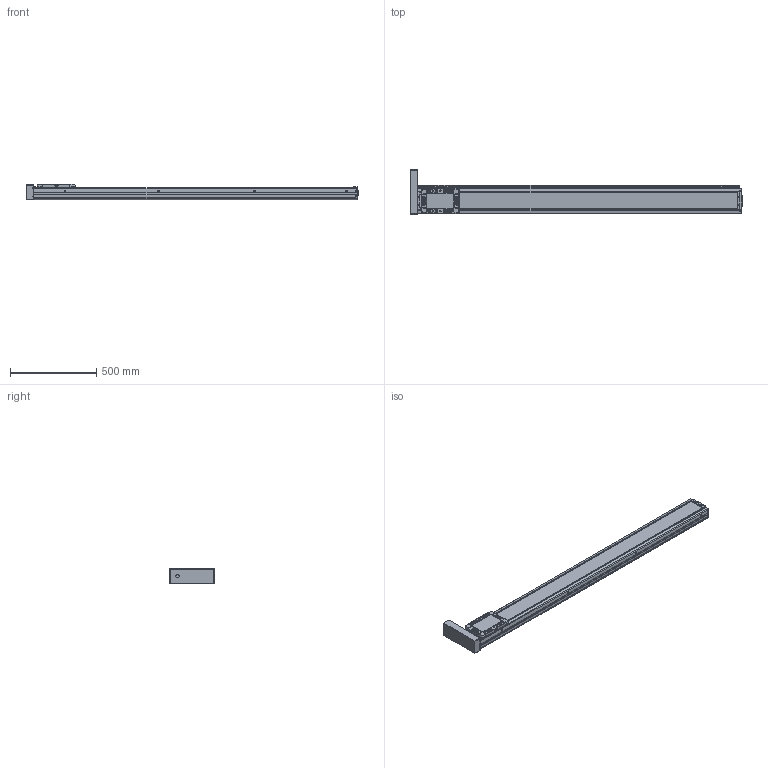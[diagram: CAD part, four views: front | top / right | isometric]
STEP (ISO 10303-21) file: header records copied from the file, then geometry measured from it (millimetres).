
FILE_DESCRIPTION(('STEP AP214'),'1');
FILE_NAME('Z:/Web/3D/SAN150/2013.04 (STP.)/SAN150ㅁㅁ-1600PL+3SL.stp','2013-05-07T08:21:54',(' '),(' '),'Spatial InterOp 3D',' ',' ');
FILE_SCHEMA(('automotive_design'));
Length unit declared in the file: millimetre
Products named in the file (62): M3.0 x 6.0; SRL-16x17-360L; SGD-SAN150; EE-SX674; SBK-SX674-352; 스크루 : Round - M3.0 x 6.0; BHCS M4.0 x 10.0; BHCS M3.0 x 6.0; P; SLBL-SAN150; SLCV-SAN150; FHCS M4.0 x 8.0; SFX-SAN150; RRCV-SAN150; FRBL-SAN150; Spacer; RN15; FRCV-SAN150; Screw 20; BASE-SAN150-000L ; SUS COVER; 스크루 : Round - M5.0 x 6.0
Bounding box: 1920 x 260.73 x 90 mm (x, y, z)
Volume: 10673948.4 mm3; surface area: 2046140.8 mm2
Topology: 62 solids, 62 shells, 2952 faces, 7590 edges, 4847 vertices
Faces by surface type: plane 1458, cylinder 1003, cone 370, sphere 88, bspline 21, torus 12
Entity records: 117482 total; most frequent: CARTESIAN_POINT 19337, DIRECTION 16100, ORIENTED_EDGE 14860, EDGE_CURVE 7430, AXIS2_PLACEMENT_3D 5813, VERTEX_POINT 4847, LINE 4474, VECTOR 4474
